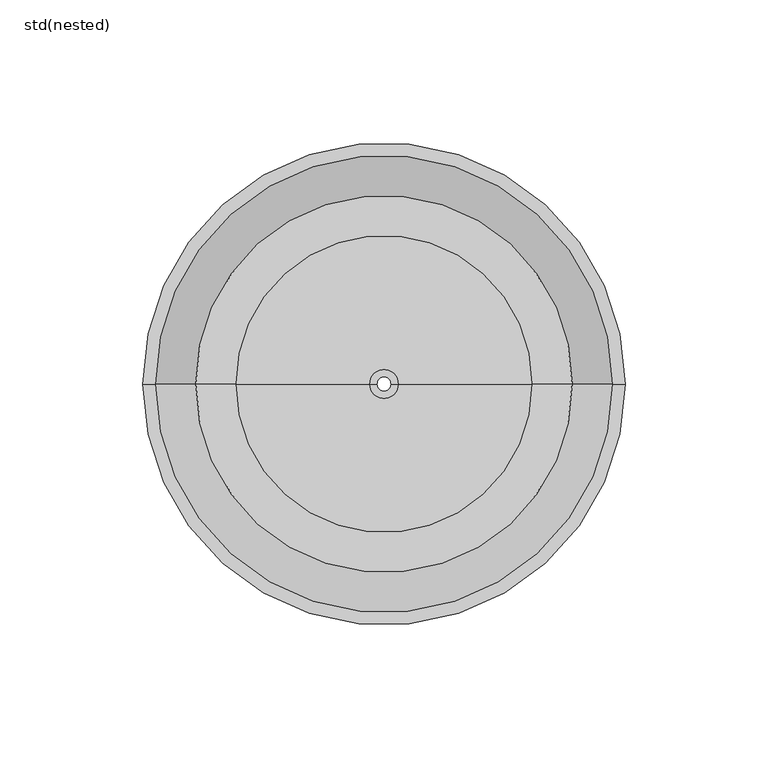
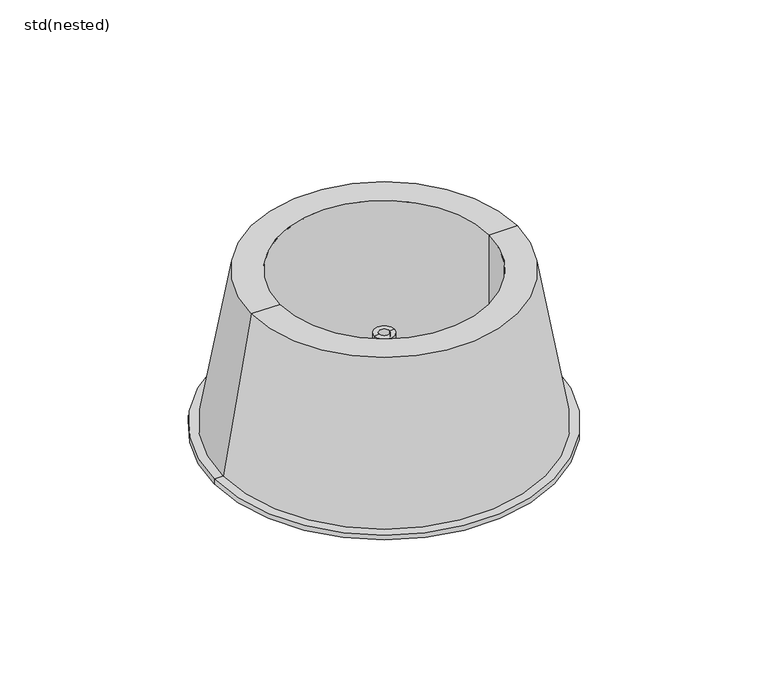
"""IFC4 building model written with IfcOpenShell, lengths in millimetres: sanitary terminal geometry, ZZZ_do not use_PF_ST_UN_casing bell_ACO : std(nested)."""

from ifc_helpers import new_model, si_unit, frame, origin, place, context, project, spatial, polyline, circle_curve, source, transform, mapped, element, save
from ifc_brep_helpers import plane_surface, cylinder_surface, revolved_surface, advanced_brep


def std_nested_1b108dd8(model_context):
    return source(origin(), model_context, "Body", "AdvancedBrep", [
        advanced_brep(
        [(84.5, 0.0, -83.0), (-84.5, 0.0, -83.0), (-84.5, 0.0, -80.5), (84.5, 0.0, -80.5), (2.5, 0.0, -83.0), (-2.5, 0.0, -83.0), (52.0, 0.0, 0.0), (-52.0, 0.0, 0.0), (-52.0, 0.0, -80.5), (52.0, 0.0, -80.5), (66.0, 0.0, 0.0), (-66.0, 0.0, 0.0), (80.0, 0.0, -80.5), (-80.0, 0.0, -80.5), (2.5, 0.0, -33.0), (-2.5, 0.0, -33.0), (5.0, 0.0, -33.0), (-5.0, 0.0, -33.0), (5.0, 0.0, -80.5), (-5.0, 0.0, -80.5)],
        [
            (0, 1, circle_curve(frame((0.0, 0.0, -83.0), z_axis=(0.0, 0.0, 1.0), x_axis=(-1.0, 0.0, 0.0)), 84.5)),
            (1, 2),
            (2, 3, circle_curve(frame((0.0, 0.0, -80.5), z_axis=(0.0, 0.0, -1.0), x_axis=(-1.0, 0.0, 0.0)), 84.5)),
            (3, 0),
            (1, 0, circle_curve(frame((0.0, 0.0, -83.0), z_axis=(0.0, 0.0, 1.0), x_axis=(-1.0, 0.0, 0.0)), 84.5)),
            (3, 2, circle_curve(frame((0.0, 0.0, -80.5), z_axis=(0.0, 0.0, -1.0), x_axis=(-1.0, 0.0, 0.0)), 84.5)),
            (4, 5, circle_curve(frame((0.0, 0.0, -83.0), z_axis=(0.0, 0.0, 1.0), x_axis=(-1.0, 0.0, 0.0)), 2.5)),
            (5, 1),
            (0, 4),
            (5, 4, circle_curve(frame((0.0, 0.0, -83.0), z_axis=(0.0, 0.0, 1.0), x_axis=(-1.0, 0.0, 0.0)), 2.5)),
            (6, 7, circle_curve(frame((0.0, 0.0, 0.0), z_axis=(0.0, 0.0, 1.0), x_axis=(-1.0, 0.0, 0.0)), 52.0)),
            (7, 8),
            (8, 9, circle_curve(frame((0.0, 0.0, -80.5), z_axis=(0.0, 0.0, -1.0), x_axis=(-1.0, 0.0, 0.0)), 52.0)),
            (9, 6),
            (7, 6, circle_curve(frame((0.0, 0.0, 0.0), z_axis=(0.0, 0.0, 1.0), x_axis=(-1.0, 0.0, 0.0)), 52.0)),
            (9, 8, circle_curve(frame((0.0, 0.0, -80.5), z_axis=(0.0, 0.0, -1.0), x_axis=(-1.0, 0.0, 0.0)), 52.0)),
            (10, 11, circle_curve(frame((0.0, 0.0, 0.0), z_axis=(0.0, 0.0, 1.0), x_axis=(-1.0, 0.0, 0.0)), 66.0)),
            (11, 7),
            (6, 10),
            (11, 10, circle_curve(frame((0.0, 0.0, 0.0), z_axis=(0.0, 0.0, 1.0), x_axis=(-1.0, 0.0, 0.0)), 66.0)),
            (12, 13, circle_curve(frame((0.0, 0.0, -80.5), z_axis=(0.0, 0.0, 1.0), x_axis=(-1.0, 0.0, 0.0)), 80.0)),
            (13, 11),
            (10, 12),
            (13, 12, circle_curve(frame((0.0, 0.0, -80.5), z_axis=(0.0, 0.0, 1.0), x_axis=(-1.0, 0.0, 0.0)), 80.0)),
            (2, 13),
            (12, 3),
            (14, 15, circle_curve(frame((0.0, 0.0, -33.0), z_axis=(0.0, 0.0, 1.0), x_axis=(-1.0, 0.0, 0.0)), 2.5)),
            (15, 5),
            (4, 14),
            (15, 14, circle_curve(frame((0.0, 0.0, -33.0), z_axis=(0.0, 0.0, 1.0), x_axis=(-1.0, 0.0, 0.0)), 2.5)),
            (16, 17, circle_curve(frame((0.0, 0.0, -33.0), z_axis=(0.0, 0.0, 1.0), x_axis=(-1.0, 0.0, 0.0)), 5.0)),
            (17, 15),
            (14, 16),
            (17, 16, circle_curve(frame((0.0, 0.0, -33.0), z_axis=(0.0, 0.0, 1.0), x_axis=(-1.0, 0.0, 0.0)), 5.0)),
            (18, 19, circle_curve(frame((0.0, 0.0, -80.5), z_axis=(0.0, 0.0, 1.0), x_axis=(-1.0, 0.0, 0.0)), 5.0)),
            (19, 17),
            (16, 18),
            (19, 18, circle_curve(frame((0.0, 0.0, -80.5), z_axis=(0.0, 0.0, 1.0), x_axis=(-1.0, 0.0, 0.0)), 5.0)),
            (8, 19),
            (18, 9),
        ],
        [
            cylinder_surface(frame((0.0, 0.0, 0.0), z_axis=(0.0, 0.0, -1.0), x_axis=(-1.0, 0.0, 0.0)), 84.5),
            plane_surface(frame((0.0, 0.0, -83.0), z_axis=(0.0, 0.0, -1.0), x_axis=(-1.0, 0.0, 0.0))),
            revolved_surface(polyline([(-52.0, 0.0, -80.5), (-52.0, 0.0, 0.0)]), (0.0, 0.0, 0.0), (0.0, 0.0, -1.0)),
            plane_surface(frame((0.0, 0.0, 0.0), z_axis=(0.0, 0.0, 1.0), x_axis=(-1.0, 0.0, 0.0))),
            revolved_surface(polyline([(-66.0, 0.0, 0.0), (-80.0, 0.0, -80.5)]), (0.0, 0.0, 0.0), (0.0, 0.0, -1.0)),
            plane_surface(frame((0.0, 0.0, -80.5), z_axis=(0.0, 0.0, 1.0), x_axis=(-1.0, 0.0, 0.0))),
            revolved_surface(polyline([(-2.5, 0.0, -83.0), (-2.5, 0.0, -33.0)]), (0.0, 0.0, 0.0), (0.0, 0.0, -1.0)),
            plane_surface(frame((0.0, 0.0, -33.0), z_axis=(0.0, 0.0, 1.0), x_axis=(-1.0, 0.0, 0.0))),
            cylinder_surface(frame((0.0, 0.0, 0.0), z_axis=(0.0, 0.0, -1.0), x_axis=(-1.0, 0.0, 0.0)), 5.0),
        ],
        [
            (0, [[1, 2, 3, 4]]),
            (0, [[5, -4, 6, -2]]),
            (1, [[7, 8, -1, 9]]),
            (1, [[10, -9, -5, -8]]),
            (2, [[11, 12, 13, 14]]),
            (2, [[15, -14, 16, -12]]),
            (3, [[17, 18, -11, 19]]),
            (3, [[20, -19, -15, -18]]),
            (4, [[21, 22, -17, 23]]),
            (4, [[24, -23, -20, -22]]),
            (5, [[-3, 25, -21, 26]]),
            (5, [[-6, -26, -24, -25]]),
            (6, [[27, 28, -7, 29]]),
            (6, [[30, -29, -10, -28]]),
            (7, [[31, 32, -27, 33]]),
            (7, [[34, -33, -30, -32]]),
            (8, [[35, 36, -31, 37]]),
            (8, [[38, -37, -34, -36]]),
            (5, [[-13, 39, -35, 40]]),
            (5, [[-16, -40, -38, -39]]),
        ],
    ),
    ])


if __name__ == "__main__":
    model = new_model("IFC4")
    model_context = context("Model", 3, world=origin())
    ifc_project = project(units=[si_unit("LENGTHUNIT", "METRE", prefix="MILLI")], contexts=[model_context])
    site = spatial("IfcSite", under=ifc_project)
    building = spatial("IfcBuilding", under=site)
    placement = place(None, origin())
    std_nested_shape = std_nested_1b108dd8(model_context)
    element("IfcSanitaryTerminal", 1, ObjectType="ZZZ_do not use_PF_ST_UN_casing bell_ACO : std(nested)", at=placement, inside=building, context=model_context, shape_type="MappedRepresentation", body=[
        mapped(std_nested_shape, transform((0.0, 0.0, 0.0), x_axis=(1.0, 0.0, 0.0), y_axis=(0.0, 1.0, 0.0), z_axis=(0.0, 0.0, 1.0))),
    ])
    save(model, "model.ifc")
